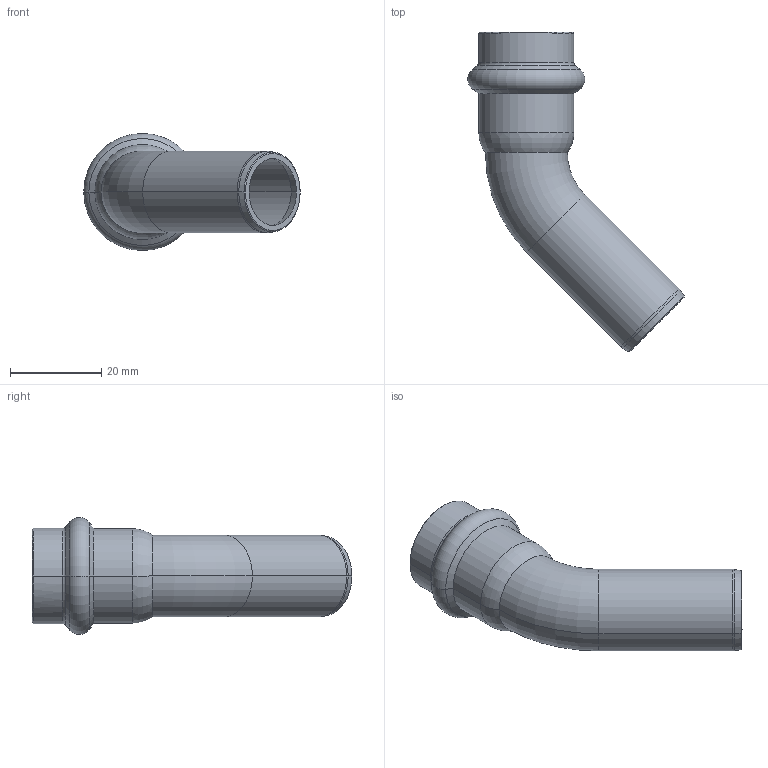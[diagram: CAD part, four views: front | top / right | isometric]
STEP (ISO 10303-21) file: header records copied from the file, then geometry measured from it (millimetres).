
FILE_DESCRIPTION(('CoCreate Modeling STEP Export'),'2;1');
FILE_NAME('8040VW18.stp','2013-01-29T14:40:31',(''),(''),'CoCreate Modeling STEP processor for AP214 (Solid Model)','CoCreate Modeling 17.00A 17-Jun-2010 (C) Parametric Technology GmbH','');
FILE_SCHEMA(('AUTOMOTIVE_DESIGN { 1 0 10303 214 1 1 1 1 }'));
Length unit declared in the file: millimetre
Products named in the file (1): 8040VW18
Bounding box: 47.51 x 70.21 x 25.7 mm (x, y, z)
Volume: 6252.1 mm3; surface area: 8826.4 mm2
Topology: 1 solids, 1 shells, 52 faces, 111 edges, 63 vertices
Faces by surface type: torus 18, cone 16, cylinder 14, plane 4
Entity records: 1153 total; most frequent: ORIENTED_EDGE 222, DIRECTION 184, CARTESIAN_POINT 170, EDGE_CURVE 111, AXIS2_PLACEMENT_3D 77, VERTEX_POINT 63, EDGE_LOOP 56, FACE_OUTER_BOUND 52
